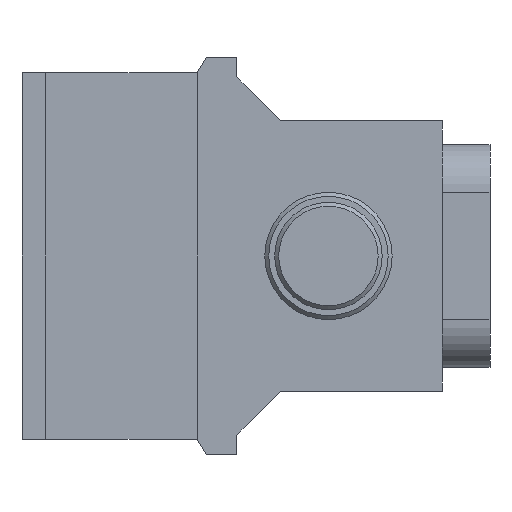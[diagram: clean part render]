
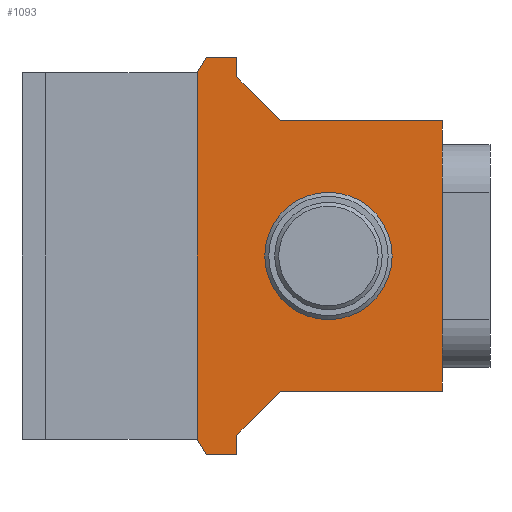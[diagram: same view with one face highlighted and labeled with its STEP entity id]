
A CAD part, left-side view. The second image highlights one B-rep face of the part: STEP entity #1093.
In plain terms, the highlighted planar face has unit normal (-1, 0, 0).
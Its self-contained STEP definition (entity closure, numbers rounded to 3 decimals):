
#7 = LINE ( 'NONE', #2505, #1741 ) ;
#20 = VERTEX_POINT ( 'NONE', #567 ) ;
#25 = ORIENTED_EDGE ( 'NONE', *, *, #1839, .F. ) ;
#30 = VECTOR ( 'NONE', #1329, 1000. ) ;
#41 = CARTESIAN_POINT ( 'NONE',  ( -11., 26.5, 8. ) ) ;
#58 = CARTESIAN_POINT ( 'NONE',  ( -11., 43., -23. ) ) ;
#66 = EDGE_CURVE ( 'NONE', #193, #193, #2606, .T. ) ;
#84 = ORIENTED_EDGE ( 'NONE', *, *, #1571, .F. ) ;
#120 = VERTEX_POINT ( 'NONE', #1866 ) ;
#138 = CARTESIAN_POINT ( 'NONE',  ( -11., 38., -25. ) ) ;
#193 = VERTEX_POINT ( 'NONE', #41 ) ;
#212 = ORIENTED_EDGE ( 'NONE', *, *, #925, .F. ) ;
#240 = VECTOR ( 'NONE', #2580, 1000. ) ;
#246 = DIRECTION ( 'NONE',  ( 0., 0., 1. ) ) ;
#273 = CARTESIAN_POINT ( 'NONE',  ( -11., 43., -23. ) ) ;
#312 = ORIENTED_EDGE ( 'NONE', *, *, #2118, .F. ) ;
#325 = FACE_OUTER_BOUND ( 'NONE', #1385, .T. ) ;
#326 = EDGE_CURVE ( 'NONE', #20, #120, #2686, .T. ) ;
#331 = VECTOR ( 'NONE', #562, 1000. ) ;
#397 = LINE ( 'NONE', #916, #1428 ) ;
#478 = DIRECTION ( 'NONE',  ( 0., 0., -1. ) ) ;
#516 = CARTESIAN_POINT ( 'NONE',  ( -11., 41.845, -25. ) ) ;
#562 = DIRECTION ( 'NONE',  ( 0., 0., -1. ) ) ;
#567 = CARTESIAN_POINT ( 'NONE',  ( -11., 38., 25. ) ) ;
#605 = AXIS2_PLACEMENT_3D ( 'NONE', #1823, #611, #2666 ) ;
#611 = DIRECTION ( 'NONE',  ( 1., 0., 0. ) ) ;
#615 = CARTESIAN_POINT ( 'NONE',  ( -11., 32.5, -17. ) ) ;
#630 = ORIENTED_EDGE ( 'NONE', *, *, #1928, .F. ) ;
#662 = DIRECTION ( 'NONE',  ( 0., 0.5, 0.866 ) ) ;
#666 = CARTESIAN_POINT ( 'NONE',  ( -11., 41.845, 25. ) ) ;
#679 = LINE ( 'NONE', #2525, #30 ) ;
#685 = LINE ( 'NONE', #273, #1314 ) ;
#688 = DIRECTION ( 'NONE',  ( 0., -0.5, 0.866 ) ) ;
#698 = ORIENTED_EDGE ( 'NONE', *, *, #326, .F. ) ;
#703 = EDGE_LOOP ( 'NONE', ( #1098 ) ) ;
#737 = CARTESIAN_POINT ( 'NONE',  ( -11., 38., 22.5 ) ) ;
#762 = CARTESIAN_POINT ( 'NONE',  ( -11., 38., 23. ) ) ;
#772 = CARTESIAN_POINT ( 'NONE',  ( -11., 12.2, 14. ) ) ;
#814 = LINE ( 'NONE', #2090, #240 ) ;
#818 = CARTESIAN_POINT ( 'NONE',  ( -11., 43., 23. ) ) ;
#916 = CARTESIAN_POINT ( 'NONE',  ( -11., 38., 25. ) ) ;
#923 = LINE ( 'NONE', #737, #997 ) ;
#925 = EDGE_CURVE ( 'NONE', #1198, #1790, #679, .T. ) ;
#945 = CARTESIAN_POINT ( 'NONE',  ( -11., 12.2, -14. ) ) ;
#953 = FACE_BOUND ( 'NONE', #703, .T. ) ;
#971 = VECTOR ( 'NONE', #1234, 1000. ) ;
#982 = CARTESIAN_POINT ( 'NONE',  ( -11., 12.2, -17. ) ) ;
#994 = ORIENTED_EDGE ( 'NONE', *, *, #2405, .F. ) ;
#997 = VECTOR ( 'NONE', #1332, 1000. ) ;
#1003 = LINE ( 'NONE', #2483, #1083 ) ;
#1007 = ORIENTED_EDGE ( 'NONE', *, *, #1250, .F. ) ;
#1044 = VECTOR ( 'NONE', #1699, 1000. ) ;
#1046 = VERTEX_POINT ( 'NONE', #772 ) ;
#1078 = AXIS2_PLACEMENT_3D ( 'NONE', #1777, #1997, #1537 ) ;
#1081 = LINE ( 'NONE', #2075, #2696 ) ;
#1083 = VECTOR ( 'NONE', #2047, 1000. ) ;
#1093 = ADVANCED_FACE ( 'NONE', ( #953, #325 ), #1381, .T. ) ;
#1098 = ORIENTED_EDGE ( 'NONE', *, *, #66, .T. ) ;
#1115 = CARTESIAN_POINT ( 'NONE',  ( -11., 38., -22.5 ) ) ;
#1123 = VECTOR ( 'NONE', #2489, 1000. ) ;
#1198 = VERTEX_POINT ( 'NONE', #1957 ) ;
#1234 = DIRECTION ( 'NONE',  ( 0., 0.707, -0.707 ) ) ;
#1250 = EDGE_CURVE ( 'NONE', #2346, #1694, #1420, .T. ) ;
#1283 = LINE ( 'NONE', #1326, #2430 ) ;
#1296 = ORIENTED_EDGE ( 'NONE', *, *, #2373, .F. ) ;
#1312 = EDGE_CURVE ( 'NONE', #2596, #1499, #1003, .T. ) ;
#1314 = VECTOR ( 'NONE', #662, 1000. ) ;
#1326 = CARTESIAN_POINT ( 'NONE',  ( -11., 12.2, -17. ) ) ;
#1329 = DIRECTION ( 'NONE',  ( 0., -1., 0. ) ) ;
#1332 = DIRECTION ( 'NONE',  ( 0., -0.707, -0.707 ) ) ;
#1381 = PLANE ( 'NONE',  #1078 ) ;
#1385 = EDGE_LOOP ( 'NONE', ( #212, #1974, #698, #1910, #994, #2429, #312, #1799, #25, #1296, #2568, #1007, #84, #630 ) ) ;
#1420 = LINE ( 'NONE', #982, #1123 ) ;
#1428 = VECTOR ( 'NONE', #2071, 1000. ) ;
#1433 = EDGE_CURVE ( 'NONE', #1791, #2669, #1081, .T. ) ;
#1495 = LINE ( 'NONE', #2329, #2570 ) ;
#1499 = VERTEX_POINT ( 'NONE', #516 ) ;
#1520 = EDGE_CURVE ( 'NONE', #120, #1198, #923, .T. ) ;
#1537 = DIRECTION ( 'NONE',  ( 0., 0., 1. ) ) ;
#1563 = CARTESIAN_POINT ( 'NONE',  ( -11., 12.2, -17. ) ) ;
#1571 = EDGE_CURVE ( 'NONE', #1046, #2346, #1283, .T. ) ;
#1623 = EDGE_CURVE ( 'NONE', #1874, #20, #397, .T. ) ;
#1639 = EDGE_CURVE ( 'NONE', #1694, #2468, #814, .T. ) ;
#1681 = CARTESIAN_POINT ( 'NONE',  ( -11., 38., -22.5 ) ) ;
#1694 = VERTEX_POINT ( 'NONE', #1563 ) ;
#1699 = DIRECTION ( 'NONE',  ( 0., 0., -1. ) ) ;
#1741 = VECTOR ( 'NONE', #688, 1000. ) ;
#1777 = CARTESIAN_POINT ( 'NONE',  ( -11., 38., 17. ) ) ;
#1790 = VERTEX_POINT ( 'NONE', #2576 ) ;
#1791 = VERTEX_POINT ( 'NONE', #58 ) ;
#1799 = ORIENTED_EDGE ( 'NONE', *, *, #1312, .F. ) ;
#1823 = CARTESIAN_POINT ( 'NONE',  ( -11., 26.5, 0. ) ) ;
#1839 = EDGE_CURVE ( 'NONE', #2008, #2596, #2559, .T. ) ;
#1866 = CARTESIAN_POINT ( 'NONE',  ( -11., 38., 22.5 ) ) ;
#1874 = VERTEX_POINT ( 'NONE', #666 ) ;
#1909 = DIRECTION ( 'NONE',  ( 0., 0., -1. ) ) ;
#1910 = ORIENTED_EDGE ( 'NONE', *, *, #1623, .F. ) ;
#1928 = EDGE_CURVE ( 'NONE', #1790, #1046, #1495, .T. ) ;
#1957 = CARTESIAN_POINT ( 'NONE',  ( -11., 32.5, 17. ) ) ;
#1974 = ORIENTED_EDGE ( 'NONE', *, *, #1520, .F. ) ;
#1997 = DIRECTION ( 'NONE',  ( -1., 0., 0. ) ) ;
#2008 = VERTEX_POINT ( 'NONE', #1681 ) ;
#2047 = DIRECTION ( 'NONE',  ( 0., 1., 0. ) ) ;
#2071 = DIRECTION ( 'NONE',  ( 0., -1., 0. ) ) ;
#2075 = CARTESIAN_POINT ( 'NONE',  ( -11., 43., 23. ) ) ;
#2090 = CARTESIAN_POINT ( 'NONE',  ( -11., 32.5, -17. ) ) ;
#2118 = EDGE_CURVE ( 'NONE', #1499, #1791, #685, .T. ) ;
#2194 = CARTESIAN_POINT ( 'NONE',  ( -11., 32.5, -17. ) ) ;
#2329 = CARTESIAN_POINT ( 'NONE',  ( -11., 12.2, -17. ) ) ;
#2346 = VERTEX_POINT ( 'NONE', #945 ) ;
#2373 = EDGE_CURVE ( 'NONE', #2468, #2008, #2681, .T. ) ;
#2405 = EDGE_CURVE ( 'NONE', #2669, #1874, #7, .T. ) ;
#2429 = ORIENTED_EDGE ( 'NONE', *, *, #1433, .F. ) ;
#2430 = VECTOR ( 'NONE', #478, 1000. ) ;
#2468 = VERTEX_POINT ( 'NONE', #2194 ) ;
#2483 = CARTESIAN_POINT ( 'NONE',  ( -11., 38., -25. ) ) ;
#2489 = DIRECTION ( 'NONE',  ( 0., 0., -1. ) ) ;
#2505 = CARTESIAN_POINT ( 'NONE',  ( -11., 43., 23. ) ) ;
#2525 = CARTESIAN_POINT ( 'NONE',  ( -11., 12.2, 17. ) ) ;
#2559 = LINE ( 'NONE', #1115, #1044 ) ;
#2568 = ORIENTED_EDGE ( 'NONE', *, *, #1639, .F. ) ;
#2570 = VECTOR ( 'NONE', #1909, 1000. ) ;
#2576 = CARTESIAN_POINT ( 'NONE',  ( -11., 12.2, 17. ) ) ;
#2580 = DIRECTION ( 'NONE',  ( 0., 1., 0. ) ) ;
#2596 = VERTEX_POINT ( 'NONE', #138 ) ;
#2606 = CIRCLE ( 'NONE', #605, 8. ) ;
#2666 = DIRECTION ( 'NONE',  ( 0., 0., 1. ) ) ;
#2669 = VERTEX_POINT ( 'NONE', #818 ) ;
#2681 = LINE ( 'NONE', #615, #971 ) ;
#2686 = LINE ( 'NONE', #762, #331 ) ;
#2696 = VECTOR ( 'NONE', #246, 1000. ) ;
